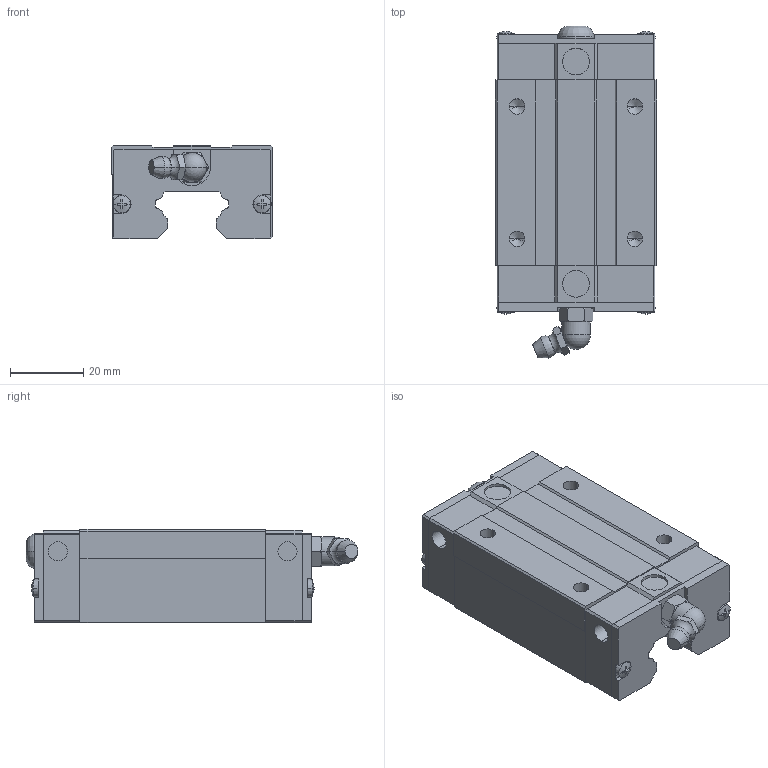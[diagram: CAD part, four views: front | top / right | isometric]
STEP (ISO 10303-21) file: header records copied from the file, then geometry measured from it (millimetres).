
FILE_DESCRIPTION(('FreeCAD Model'),'2;1');
FILE_NAME('Open CASCADE Shape Model','2021-05-03T09:29:57',('Author'),( ''),'Open CASCADE STEP processor 7.5','FreeCAD','Unknown');
FILE_SCHEMA(('AUTOMOTIVE_DESIGN { 1 0 10303 214 1 1 1 1 }'));
Length unit declared in the file: millimetre
Products named in the file (1): HGH20CA Z0 H SS
Bounding box: 44 x 90.41 x 25.4 mm (x, y, z)
Volume: 65611.6 mm3; surface area: 16169 mm2
Topology: 1 solids, 5 shells, 348 faces, 933 edges, 599 vertices
Faces by surface type: plane 206, cylinder 76, cone 46, torus 14, revolution 4, sphere 2
Entity records: 27397 total; most frequent: CARTESIAN_POINT 8205, DIRECTION 3260, LINE 2028, VECTOR 2028, ORIENTED_EDGE 1846, PCURVE 1846, DEFINITIONAL_REPRESENTATION 1846, EDGE_CURVE 923
